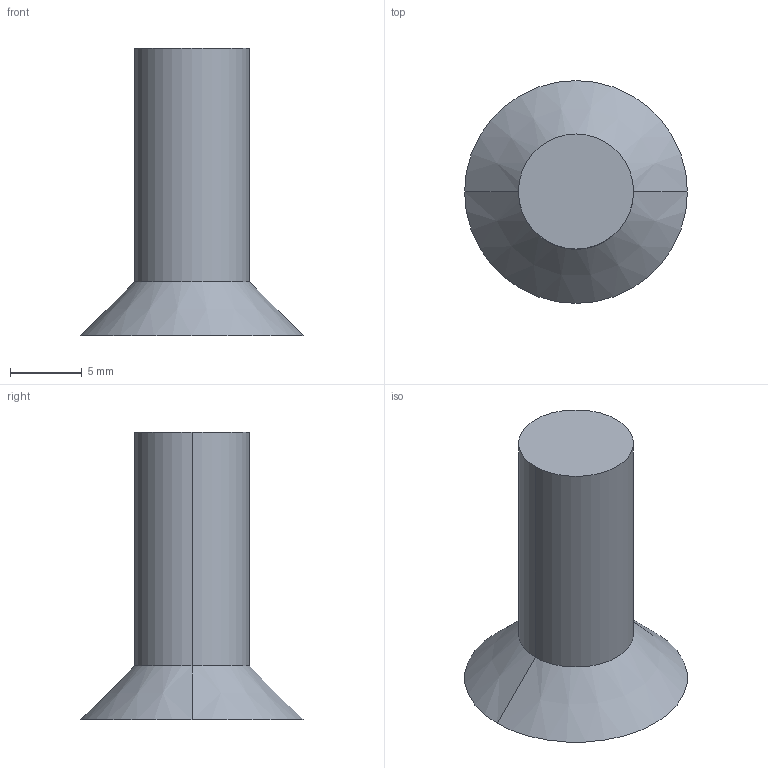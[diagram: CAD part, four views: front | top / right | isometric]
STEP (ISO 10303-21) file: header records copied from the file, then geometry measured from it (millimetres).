
FILE_DESCRIPTION((''),'2;1');
FILE_NAME('GIS450P_4','2002-12-27T',('Lipro doo'),('Lipro d.o.o.'),'PRO/ENGINEER BY PARAMETRIC TECHNOLOGY CORPORATION, 2001150','PRO/ENGINEER BY PARAMETRIC TECHNOLOGY CORPORATION, 2001150','');
FILE_SCHEMA(('CONFIG_CONTROL_DESIGN'));
Length unit declared in the file: millimetre
Products named in the file (1): GIS450P_4
Bounding box: 15.5 x 15.5 x 20 mm (x, y, z)
Volume: 1237.2 mm3; surface area: 843.1 mm2
Topology: 1 solids, 1 shells, 6 faces, 10 edges, 6 vertices
Faces by surface type: plane 2, cylinder 2, cone 2
Entity records: 182 total; most frequent: DIRECTION 28, CARTESIAN_POINT 22, ORIENTED_EDGE 20, AXIS2_PLACEMENT_3D 12, EDGE_CURVE 10, VERTEX_POINT 6, EDGE_LOOP 6, FACE_OUTER_BOUND 6
